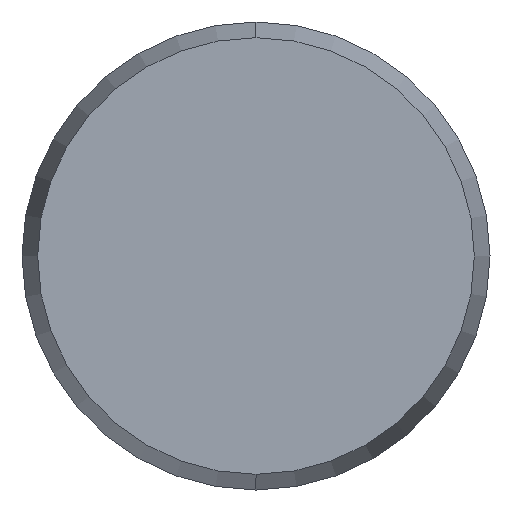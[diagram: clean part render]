
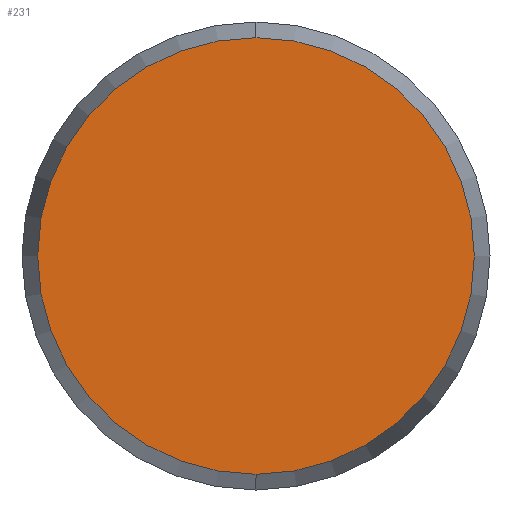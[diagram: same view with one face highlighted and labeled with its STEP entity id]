
A CAD part, left-side view. The second image highlights one B-rep face of the part: STEP entity #231.
In plain terms, the highlighted planar face has unit normal (-1, 0, 0).
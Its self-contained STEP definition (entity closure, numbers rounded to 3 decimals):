
#14 = VERTEX_POINT ( 'NONE', #36 ) ;
#18 = VERTEX_POINT ( 'NONE', #57 ) ;
#33 = EDGE_CURVE ( 'NONE', #14, #18, #65, .T. ) ;
#36 = CARTESIAN_POINT ( 'NONE',  ( -16., 0., 7.464 ) ) ;
#57 = CARTESIAN_POINT ( 'NONE',  ( -16., 0., -7.464 ) ) ;
#61 = DIRECTION ( 'NONE',  ( 1., 0., 0. ) ) ;
#62 = CARTESIAN_POINT ( 'NONE',  ( -16., 0., 0. ) ) ;
#64 = DIRECTION ( 'NONE',  ( 1., 0., 0. ) ) ;
#65 = CIRCLE ( 'NONE', #76, 7.464 ) ;
#73 = CARTESIAN_POINT ( 'NONE',  ( -16., 0., 0. ) ) ;
#75 = DIRECTION ( 'NONE',  ( 0., 0., -1. ) ) ;
#76 = AXIS2_PLACEMENT_3D ( 'NONE', #73, #64, #75 ) ;
#116 = DIRECTION ( 'NONE',  ( 0., 0., -1. ) ) ;
#140 = CIRCLE ( 'NONE', #142, 7.464 ) ;
#141 = FACE_OUTER_BOUND ( 'NONE', #232, .T. ) ;
#142 = AXIS2_PLACEMENT_3D ( 'NONE', #147, #148, #146 ) ;
#143 = PLANE ( 'NONE',  #145 ) ;
#145 = AXIS2_PLACEMENT_3D ( 'NONE', #62, #61, #116 ) ;
#146 = DIRECTION ( 'NONE',  ( 0., 0., -1. ) ) ;
#147 = CARTESIAN_POINT ( 'NONE',  ( -16., 0., 0. ) ) ;
#148 = DIRECTION ( 'NONE',  ( 1., 0., 0. ) ) ;
#228 = EDGE_CURVE ( 'NONE', #18, #14, #140, .T. ) ;
#231 = ADVANCED_FACE ( 'NONE', ( #141 ), #143, .F. ) ;
#232 = EDGE_LOOP ( 'NONE', ( #233, #234 ) ) ;
#233 = ORIENTED_EDGE ( 'NONE', *, *, #33, .F. ) ;
#234 = ORIENTED_EDGE ( 'NONE', *, *, #228, .F. ) ;
